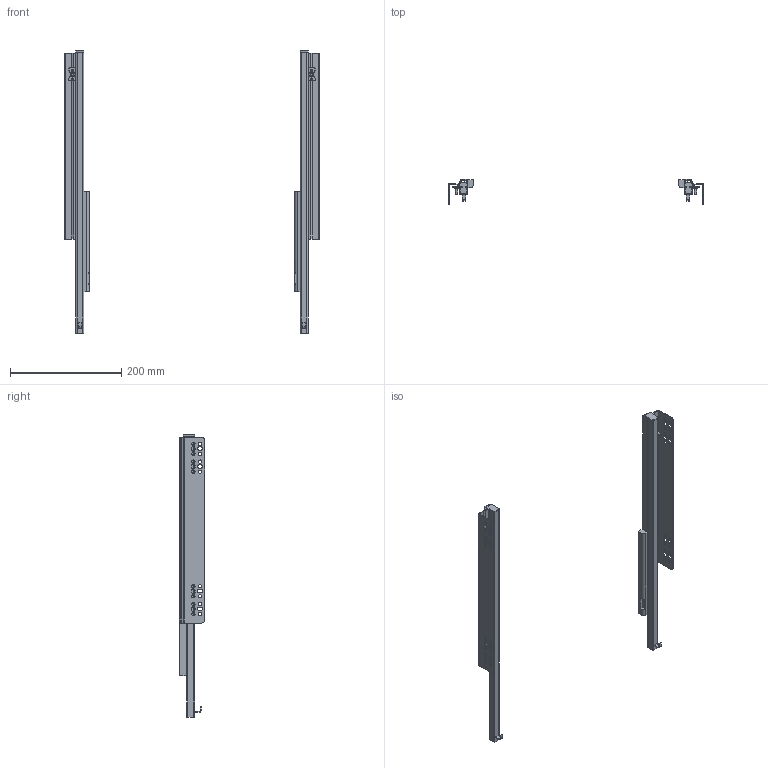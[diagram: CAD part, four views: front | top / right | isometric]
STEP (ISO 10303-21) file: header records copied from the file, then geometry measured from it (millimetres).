
FILE_DESCRIPTION(/* description */ ('Akc'),/* implementation_level */ '2;1');
FILE_NAME(/* name */ 'C:\Users\dmitruk\Documents\WORK\НАПРАВЛЯЮЩИЕ\Скрытого монтажа\Q-Type\Q-Type насадной (16 мм)\Q-Type насадной (16 мм)-500.stp',/* time_stamp */ '2022-04-25T09:43:09+03:00',/* author */ ('dmitruk'),/* organization */ (''),/* preprocessor_version */ 'ST-DEVELOPER v16.5',/* originating_system */ 'Autodesk Inventor 2017',/* authorisation */ '');
FILE_SCHEMA (('AUTOMOTIVE_DESIGN { 1 0 10303 214 3 1 1 }'));
Length unit declared in the file: millimetre
Products named in the file (5): Q-Type насадной (16 \X2\043C
043C\X0\); Q-Type насадной \X2\043E
0441043D043E04320430043D04380435\X0\ L (16 мм); Q-Type насадной \X2\0432
044B04340432043804360435043D04380435\X0\ L; Q-Type насадной \X2\043E
0441043D043E04320430043D04380435\X0\ P (16 мм); Q-Type насадной \X2\0432
044B04340432043804360435043D04380435\X0\ P
Assembly tree (4 placements, depth 2):
  Q-Type насадной (16 \X2\043C
043C\X0\)
    Q-Type насадной \X2\043E
0441043D043E04320430043D04380435\X0\ L (16 мм)
    Q-Type насадной \X2\0432
044B04340432043804360435043D04380435\X0\ L
    Q-Type насадной \X2\043E
0441043D043E04320430043D04380435\X0\ P (16 мм)
    Q-Type насадной \X2\0432
044B04340432043804360435043D04380435\X0\ P
Bounding box: 457.29 x 45 x 507 mm (x, y, z)
Volume: 205495.4 mm3; surface area: 271227.3 mm2
Topology: 8 solids, 8 shells, 354 faces, 966 edges, 636 vertices
Faces by surface type: plane 212, cylinder 138, bspline 4
Full cylindrical faces by diameter (mm): 3 x4, 5 x2, 6 x32, 9 x2
Entity records: 11825 total; most frequent: CARTESIAN_POINT 2089, DIRECTION 1912, ORIENTED_EDGE 1848, EDGE_CURVE 924, AXIS2_PLACEMENT_3D 641, VERTEX_POINT 634, LINE 630, VECTOR 630
